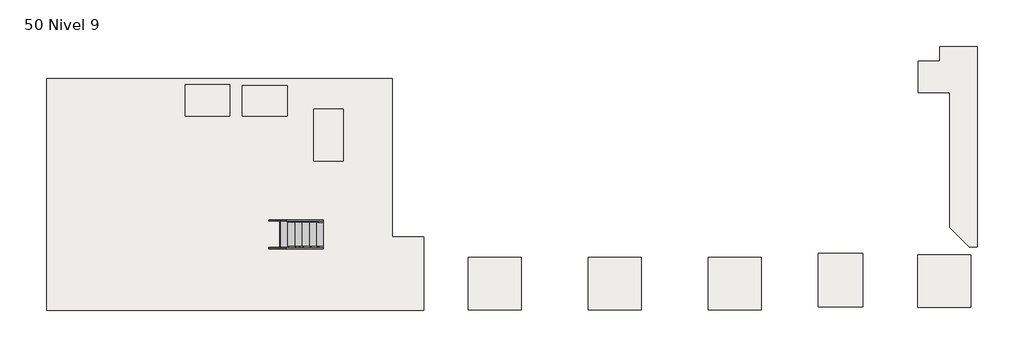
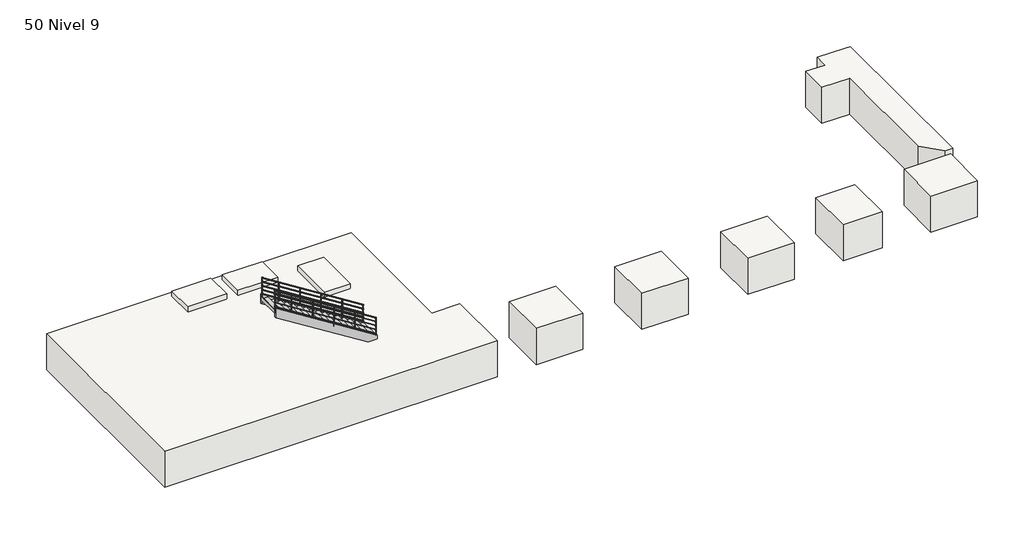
# One storey: 10 slabs, 2 members, 2 railings, 1 stair flight.
"""IFC4 building model written with IfcOpenShell, lengths in millimetres."""

from ifc_helpers import new_model, si_unit, frame, origin, place, context, project, spatial, polyline, circle_curve, ellipse_curve, outline, extrude, transform, mapped, element, save
from ifc_brep_helpers import plane_surface, cylinder_surface, advanced_brep
from components import stair_flight_0d32d6d2

model = new_model("IFC4")

# Units and contexts
model_context = context("Model", 3, world=origin())
ifc_project = project(units=[si_unit("LENGTHUNIT", "METRE", prefix="MILLI")], contexts=[model_context])

# Site, building, storey
site = spatial("IfcSite", under=ifc_project)
building = spatial("IfcBuilding", under=site)
storey = spatial("IfcBuildingStorey", under=building, Name="50 Nivel 9", Elevation=-5013.3149332)

# Members
placement = place(None, origin())
element("IfcMember", 1, ObjectType="Zanca - Anchura 50 mm", at=placement, inside=storey, context=model_context, shape_type="SweptSolid", body=[
    extrude(outline(polyline([(-5013.3149332, -7103.8952515), (-4775.7061654, -7103.8952515), (-1751.4097577, -11903.8952515), (-2224.1850212, -11903.8952515), (-5013.3149332, -7477.1388186), (-5013.3149332, -7103.8952515)])), frame((0.0, 3850.9420904, 0.0), z_axis=(0.0, 1.0, 0.0), x_axis=(0.0, 0.0, 1.0)), (0.0, 0.0, 1.0), 50.0),
])
element("IfcMember", 2, ObjectType="Zanca - Anchura 50 mm", at=placement, inside=storey, context=model_context, shape_type="SweptSolid", body=[
    extrude(outline(polyline([(-5013.3149332, -7103.8952515), (-4775.7061654, -7103.8952515), (-1751.4097577, -11903.8952515), (-2224.1850212, -11903.8952515), (-5013.3149332, -7477.1388186), (-5013.3149332, -7103.8952515)])), frame((0.0, 5000.9420904, 0.0), z_axis=(0.0, 1.0, 0.0), x_axis=(0.0, 0.0, 1.0)), (0.0, 0.0, 1.0), 50.0),
])

# Railings
element("IfcRailing", 3, ObjectType="Tubería 900 mm", at=placement, inside=storey, context=model_context, shape_type="AdvancedBrep", body=[
    advanced_brep(
    [(-7103.8952515, 4995.5420904, -3947.9351709), (-7103.8952515, 4955.5420904, -3947.9351709), (-11903.8952515, 4995.5420904, -923.6387632), (-11903.8952515, 4955.5420904, -923.6387632)],
    [
        (0, 1, ellipse_curve(frame((-7103.8952515, 4975.5420904, -3947.9351709), z_axis=(1.0, 0.0, 0.0), x_axis=(0.0, 0.0, -1.0)), 23.6387632, 20.0)),
        (1, 0, ellipse_curve(frame((-7103.8952515, 4975.5420904, -3947.9351709), z_axis=(1.0, 0.0, 0.0), x_axis=(0.0, 0.0, -1.0)), 23.6387632, 20.0)),
        (2, 3, ellipse_curve(frame((-11903.8952515, 4975.5420904, -923.6387632), z_axis=(-1.0, 0.0, 0.0), x_axis=(0.0, 0.0, -1.0)), 23.6387632, 20.0)),
        (3, 2, ellipse_curve(frame((-11903.8952515, 4975.5420904, -923.6387632), z_axis=(-1.0, 0.0, 0.0), x_axis=(0.0, 0.0, -1.0)), 23.6387632, 20.0)),
        (0, 2),
        (3, 1),
    ],
    [
        plane_surface(frame((-7103.8952515, 4975.5420904, -3924.2964077), z_axis=(1.0, 0.0, 0.0), x_axis=(0.0, -1.0, 0.0))),
        plane_surface(frame((-11903.8952515, 4975.5420904, -900.0), z_axis=(-1.0, 0.0, 0.0), x_axis=(0.0, -1.0, 0.0))),
        cylinder_surface(frame((-7114.5567526, 4975.5420904, -3941.2177668), z_axis=(0.8460679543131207, 0.0, -0.5330750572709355), x_axis=(0.0, -1.0, 0.0)), 20.0),
    ],
    [
        (0, [[1, 2]]),
        (1, [[3, 4]]),
        (2, [[-1, 5, -4, 6]]),
        (2, [[-2, -6, -3, -5]]),
    ],
),
    advanced_brep(
    [(-7103.8952515, 4960.5420904, -4142.0254801), (-7103.8952515, 4990.5420904, -4142.0254801), (-11903.8952515, 4960.5420904, -1117.7290724), (-11903.8952515, 4990.5420904, -1117.7290724)],
    [
        (0, 1, ellipse_curve(frame((-7103.8952515, 4975.5420904, -4142.0254801), z_axis=(1.0, 0.0, 0.0), x_axis=(0.0, 0.0, -1.0)), 17.7290724, 15.0)),
        (1, 0, ellipse_curve(frame((-7103.8952515, 4975.5420904, -4142.0254801), z_axis=(1.0, 0.0, 0.0), x_axis=(0.0, 0.0, -1.0)), 17.7290724, 15.0)),
        (2, 3, ellipse_curve(frame((-11903.8952515, 4975.5420904, -1117.7290724), z_axis=(-1.0, 0.0, 0.0), x_axis=(0.0, 0.0, -1.0)), 17.7290724, 15.0)),
        (3, 2, ellipse_curve(frame((-11903.8952515, 4975.5420904, -1117.7290724), z_axis=(-1.0, 0.0, 0.0), x_axis=(0.0, 0.0, -1.0)), 17.7290724, 15.0)),
        (0, 2),
        (3, 1),
    ],
    [
        plane_surface(frame((-7103.8952515, 4975.5420904, -4124.2964077), z_axis=(1.0, 0.0, 0.0), x_axis=(0.0, -1.0, 0.0))),
        plane_surface(frame((-11903.8952515, 4975.5420904, -1100.0), z_axis=(-1.0, 0.0, 0.0), x_axis=(0.0, -1.0, 0.0))),
        cylinder_surface(frame((-7111.8913773, 4975.5420904, -4136.987427), z_axis=(0.8460679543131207, 0.0, -0.5330750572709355), x_axis=(0.0, 1.0, 0.0)), 15.0),
    ],
    [
        (0, [[1, 2]]),
        (1, [[3, 4]]),
        (2, [[-1, 5, -4, 6]]),
        (2, [[-2, -6, -3, -5]]),
    ],
),
    advanced_brep(
    [(-7103.8952515, 4960.5420904, -4342.0254801), (-7103.8952515, 4990.5420904, -4342.0254801), (-11903.8952515, 4960.5420904, -1317.7290724), (-11903.8952515, 4990.5420904, -1317.7290724)],
    [
        (0, 1, ellipse_curve(frame((-7103.8952515, 4975.5420904, -4342.0254801), z_axis=(1.0, 0.0, 0.0), x_axis=(0.0, 0.0, -1.0)), 17.7290724, 15.0)),
        (1, 0, ellipse_curve(frame((-7103.8952515, 4975.5420904, -4342.0254801), z_axis=(1.0, 0.0, 0.0), x_axis=(0.0, 0.0, -1.0)), 17.7290724, 15.0)),
        (2, 3, ellipse_curve(frame((-11903.8952515, 4975.5420904, -1317.7290724), z_axis=(-1.0, 0.0, 0.0), x_axis=(0.0, 0.0, -1.0)), 17.7290724, 15.0)),
        (3, 2, ellipse_curve(frame((-11903.8952515, 4975.5420904, -1317.7290724), z_axis=(-1.0, 0.0, 0.0), x_axis=(0.0, 0.0, -1.0)), 17.7290724, 15.0)),
        (0, 2),
        (3, 1),
    ],
    [
        plane_surface(frame((-7103.8952515, 4975.5420904, -4324.2964077), z_axis=(1.0, 0.0, 0.0), x_axis=(0.0, -1.0, 0.0))),
        plane_surface(frame((-11903.8952515, 4975.5420904, -1300.0), z_axis=(-1.0, 0.0, 0.0), x_axis=(0.0, -1.0, 0.0))),
        cylinder_surface(frame((-7111.8913773, 4975.5420904, -4336.987427), z_axis=(0.8460679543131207, 0.0, -0.5330750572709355), x_axis=(0.0, 1.0, 0.0)), 15.0),
    ],
    [
        (0, [[1, 2]]),
        (1, [[3, 4]]),
        (2, [[-1, 5, -4, 6]]),
        (2, [[-2, -6, -3, -5]]),
    ],
),
    advanced_brep(
    [(-7103.8952515, 4960.5420904, -4542.0254801), (-7103.8952515, 4990.5420904, -4542.0254801), (-11903.8952515, 4960.5420904, -1517.7290724), (-11903.8952515, 4990.5420904, -1517.7290724)],
    [
        (0, 1, ellipse_curve(frame((-7103.8952515, 4975.5420904, -4542.0254801), z_axis=(1.0, 0.0, 0.0), x_axis=(0.0, 0.0, -1.0)), 17.7290724, 15.0)),
        (1, 0, ellipse_curve(frame((-7103.8952515, 4975.5420904, -4542.0254801), z_axis=(1.0, 0.0, 0.0), x_axis=(0.0, 0.0, -1.0)), 17.7290724, 15.0)),
        (2, 3, ellipse_curve(frame((-11903.8952515, 4975.5420904, -1517.7290724), z_axis=(-1.0, 0.0, 0.0), x_axis=(0.0, 0.0, -1.0)), 17.7290724, 15.0)),
        (3, 2, ellipse_curve(frame((-11903.8952515, 4975.5420904, -1517.7290724), z_axis=(-1.0, 0.0, 0.0), x_axis=(0.0, 0.0, -1.0)), 17.7290724, 15.0)),
        (0, 2),
        (3, 1),
    ],
    [
        plane_surface(frame((-7103.8952515, 4975.5420904, -4524.2964077), z_axis=(1.0, 0.0, 0.0), x_axis=(0.0, -1.0, 0.0))),
        plane_surface(frame((-11903.8952515, 4975.5420904, -1500.0), z_axis=(-1.0, 0.0, 0.0), x_axis=(0.0, -1.0, 0.0))),
        cylinder_surface(frame((-7111.8913773, 4975.5420904, -4536.987427), z_axis=(0.8460679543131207, 0.0, -0.5330750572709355), x_axis=(0.0, 1.0, 0.0)), 15.0),
    ],
    [
        (0, [[1, 2]]),
        (1, [[3, 4]]),
        (2, [[-1, 5, -4, 6]]),
        (2, [[-2, -6, -3, -5]]),
    ],
),
    advanced_brep(
    [(-7103.8952515, 4960.5420904, -4742.0254801), (-7103.8952515, 4990.5420904, -4742.0254801), (-11903.8952515, 4960.5420904, -1717.7290724), (-11903.8952515, 4990.5420904, -1717.7290724)],
    [
        (0, 1, ellipse_curve(frame((-7103.8952515, 4975.5420904, -4742.0254801), z_axis=(1.0, 0.0, 0.0), x_axis=(0.0, 0.0, -1.0)), 17.7290724, 15.0)),
        (1, 0, ellipse_curve(frame((-7103.8952515, 4975.5420904, -4742.0254801), z_axis=(1.0, 0.0, 0.0), x_axis=(0.0, 0.0, -1.0)), 17.7290724, 15.0)),
        (2, 3, ellipse_curve(frame((-11903.8952515, 4975.5420904, -1717.7290724), z_axis=(-1.0, 0.0, 0.0), x_axis=(0.0, 0.0, -1.0)), 17.7290724, 15.0)),
        (3, 2, ellipse_curve(frame((-11903.8952515, 4975.5420904, -1717.7290724), z_axis=(-1.0, 0.0, 0.0), x_axis=(0.0, 0.0, -1.0)), 17.7290724, 15.0)),
        (0, 2),
        (3, 1),
    ],
    [
        plane_surface(frame((-7103.8952515, 4975.5420904, -4724.2964077), z_axis=(1.0, 0.0, 0.0), x_axis=(0.0, -1.0, 0.0))),
        plane_surface(frame((-11903.8952515, 4975.5420904, -1700.0), z_axis=(-1.0, 0.0, 0.0), x_axis=(0.0, -1.0, 0.0))),
        cylinder_surface(frame((-7111.8913773, 4975.5420904, -4736.987427), z_axis=(0.8460679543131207, 0.0, -0.5330750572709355), x_axis=(0.0, 1.0, 0.0)), 15.0),
    ],
    [
        (0, [[1, 2]]),
        (1, [[3, 4]]),
        (2, [[-1, 5, -4, 6]]),
        (2, [[-2, -6, -3, -5]]),
    ],
),
    advanced_brep(
    [(-11103.8952515, 4988.0420904, -1451.3269276), (-11103.8952515, 4988.0420904, -2367.0555764), (-11103.8952515, 4963.0420904, -2367.0555764), (-11103.8952515, 4963.0420904, -1451.3269276)],
    [
        (0, 1),
        (1, 2, circle_curve(frame((-11103.8952515, 4975.5420904, -2367.0555764), z_axis=(0.0, 0.0, 1.0), x_axis=(0.0, -1.0, 0.0)), 12.5)),
        (2, 3),
        (3, 0, ellipse_curve(frame((-11103.8952515, 4975.5420904, -1451.3269276), z_axis=(-0.5330750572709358, 0.0, -0.8460679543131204), x_axis=(-0.8460679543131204, 0.0, 0.5330750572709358)), 14.774227, 12.5)),
        (0, 3, ellipse_curve(frame((-11103.8952515, 4975.5420904, -1451.3269276), z_axis=(-0.5330750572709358, 0.0, -0.8460679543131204), x_axis=(-0.8460679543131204, 0.0, 0.5330750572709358)), 14.774227, 12.5)),
        (2, 1, circle_curve(frame((-11103.8952515, 4975.5420904, -2367.0555764), z_axis=(0.0, 0.0, 1.0), x_axis=(0.0, -1.0, 0.0)), 12.5)),
    ],
    [
        cylinder_surface(frame((-11103.8952515, 4975.5420904, -2467.0555764), z_axis=(0.0, 0.0, 1.0), x_axis=(0.0, -1.0, 0.0)), 12.5),
        plane_surface(frame((-11128.8952515, 4950.5420904, -1435.5753838), z_axis=(0.5330750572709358, 0.0, 0.8460679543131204), x_axis=(0.0, 1.0, 0.0))),
        plane_surface(frame((-11078.8952515, 4950.5420904, -2367.0555764), z_axis=(0.0, 0.0, -1.0), x_axis=(0.0, 1.0, 0.0))),
    ],
    [
        (0, [[1, 2, 3, 4]]),
        (0, [[-1, 5, -3, 6]]),
        (1, [[-4, -5]]),
        (2, [[-2, -6]]),
    ],
),
    advanced_brep(
    [(-10103.8952515, 4988.0420904, -2081.3886792), (-10103.8952515, 4988.0420904, -2934.1111529), (-10103.8952515, 4963.0420904, -2934.1111529), (-10103.8952515, 4963.0420904, -2081.3886792)],
    [
        (0, 1),
        (1, 2, circle_curve(frame((-10103.8952515, 4975.5420904, -2934.1111529), z_axis=(0.0, 0.0, 1.0), x_axis=(0.0, -1.0, 0.0)), 12.5)),
        (2, 3),
        (3, 0, ellipse_curve(frame((-10103.8952515, 4975.5420904, -2081.3886792), z_axis=(-0.5330750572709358, 0.0, -0.8460679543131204), x_axis=(-0.8460679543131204, 0.0, 0.5330750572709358)), 14.774227, 12.5)),
        (0, 3, ellipse_curve(frame((-10103.8952515, 4975.5420904, -2081.3886792), z_axis=(-0.5330750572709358, 0.0, -0.8460679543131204), x_axis=(-0.8460679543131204, 0.0, 0.5330750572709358)), 14.774227, 12.5)),
        (2, 1, circle_curve(frame((-10103.8952515, 4975.5420904, -2934.1111529), z_axis=(0.0, 0.0, 1.0), x_axis=(0.0, -1.0, 0.0)), 12.5)),
    ],
    [
        cylinder_surface(frame((-10103.8952515, 4975.5420904, -3034.1111529), z_axis=(0.0, 0.0, 1.0), x_axis=(0.0, -1.0, 0.0)), 12.5),
        plane_surface(frame((-10128.8952515, 4950.5420904, -2065.6371354), z_axis=(0.5330750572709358, 0.0, 0.8460679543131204), x_axis=(0.0, 1.0, 0.0))),
        plane_surface(frame((-10078.8952515, 4950.5420904, -2934.1111529), z_axis=(0.0, 0.0, -1.0), x_axis=(0.0, 1.0, 0.0))),
    ],
    [
        (0, [[1, 2, 3, 4]]),
        (0, [[-1, 5, -3, 6]]),
        (1, [[-4, -5]]),
        (2, [[-2, -6]]),
    ],
),
    advanced_brep(
    [(-9103.8952515, 4988.0420904, -2711.4504308), (-9103.8952515, 4988.0420904, -3690.1852548), (-9103.8952515, 4963.0420904, -3690.1852548), (-9103.8952515, 4963.0420904, -2711.4504308)],
    [
        (0, 1),
        (1, 2, circle_curve(frame((-9103.8952515, 4975.5420904, -3690.1852548), z_axis=(0.0, 0.0, 1.0), x_axis=(0.0, -1.0, 0.0)), 12.5)),
        (2, 3),
        (3, 0, ellipse_curve(frame((-9103.8952515, 4975.5420904, -2711.4504308), z_axis=(-0.5330750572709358, 0.0, -0.8460679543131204), x_axis=(-0.8460679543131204, 0.0, 0.5330750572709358)), 14.774227, 12.5)),
        (0, 3, ellipse_curve(frame((-9103.8952515, 4975.5420904, -2711.4504308), z_axis=(-0.5330750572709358, 0.0, -0.8460679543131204), x_axis=(-0.8460679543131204, 0.0, 0.5330750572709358)), 14.774227, 12.5)),
        (2, 1, circle_curve(frame((-9103.8952515, 4975.5420904, -3690.1852548), z_axis=(0.0, 0.0, 1.0), x_axis=(0.0, -1.0, 0.0)), 12.5)),
    ],
    [
        cylinder_surface(frame((-9103.8952515, 4975.5420904, -3790.1852548), z_axis=(0.0, 0.0, 1.0), x_axis=(0.0, -1.0, 0.0)), 12.5),
        plane_surface(frame((-9128.8952515, 4950.5420904, -2695.698887), z_axis=(0.5330750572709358, 0.0, 0.8460679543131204), x_axis=(0.0, 1.0, 0.0))),
        plane_surface(frame((-9078.8952515, 4950.5420904, -3690.1852548), z_axis=(0.0, 0.0, -1.0), x_axis=(0.0, 1.0, 0.0))),
    ],
    [
        (0, [[1, 2, 3, 4]]),
        (0, [[-1, 5, -3, 6]]),
        (1, [[-4, -5]]),
        (2, [[-2, -6]]),
    ],
),
    advanced_brep(
    [(-8103.8952515, 4988.0420904, -3341.5121824), (-8103.8952515, 4988.0420904, -4257.2408313), (-8103.8952515, 4963.0420904, -4257.2408313), (-8103.8952515, 4963.0420904, -3341.5121824)],
    [
        (0, 1),
        (1, 2, circle_curve(frame((-8103.8952515, 4975.5420904, -4257.2408313), z_axis=(0.0, 0.0, 1.0), x_axis=(0.0, -1.0, 0.0)), 12.5)),
        (2, 3),
        (3, 0, ellipse_curve(frame((-8103.8952515, 4975.5420904, -3341.5121824), z_axis=(-0.5330750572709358, 0.0, -0.8460679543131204), x_axis=(-0.8460679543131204, 0.0, 0.5330750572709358)), 14.774227, 12.5)),
        (0, 3, ellipse_curve(frame((-8103.8952515, 4975.5420904, -3341.5121824), z_axis=(-0.5330750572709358, 0.0, -0.8460679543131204), x_axis=(-0.8460679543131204, 0.0, 0.5330750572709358)), 14.774227, 12.5)),
        (2, 1, circle_curve(frame((-8103.8952515, 4975.5420904, -4257.2408313), z_axis=(0.0, 0.0, 1.0), x_axis=(0.0, -1.0, 0.0)), 12.5)),
    ],
    [
        cylinder_surface(frame((-8103.8952515, 4975.5420904, -4357.2408313), z_axis=(0.0, 0.0, 1.0), x_axis=(0.0, -1.0, 0.0)), 12.5),
        plane_surface(frame((-8128.8952515, 4950.5420904, -3325.7606387), z_axis=(0.5330750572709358, 0.0, 0.8460679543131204), x_axis=(0.0, 1.0, 0.0))),
        plane_surface(frame((-8078.8952515, 4950.5420904, -4257.2408313), z_axis=(0.0, 0.0, -1.0), x_axis=(0.0, 1.0, 0.0))),
    ],
    [
        (0, [[1, 2, 3, 4]]),
        (0, [[-1, 5, -3, 6]]),
        (1, [[-4, -5]]),
        (2, [[-2, -6]]),
    ],
),
    advanced_brep(
    [(-11891.3952515, 4988.0420904, -955.1532982), (-11891.3952515, 4988.0420904, -1989.0185255), (-11891.3952515, 4963.0420904, -1989.0185255), (-11891.3952515, 4963.0420904, -955.1532982)],
    [
        (0, 1),
        (1, 2, circle_curve(frame((-11891.3952515, 4975.5420904, -1989.0185255), z_axis=(0.0, 0.0, 1.0), x_axis=(0.0, -1.0, 0.0)), 12.5)),
        (2, 3),
        (3, 0, ellipse_curve(frame((-11891.3952515, 4975.5420904, -955.1532982), z_axis=(-0.5330750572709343, 0.0, -0.8460679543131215), x_axis=(-0.8460679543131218, 0.0, 0.533075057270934)), 14.774227, 12.5)),
        (0, 3, ellipse_curve(frame((-11891.3952515, 4975.5420904, -955.1532982), z_axis=(-0.5330750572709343, 0.0, -0.8460679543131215), x_axis=(-0.8460679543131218, 0.0, 0.533075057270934)), 14.774227, 12.5)),
        (2, 1, circle_curve(frame((-11891.3952515, 4975.5420904, -1989.0185255), z_axis=(0.0, 0.0, 1.0), x_axis=(0.0, -1.0, 0.0)), 12.5)),
    ],
    [
        cylinder_surface(frame((-11891.3952515, 4975.5420904, -2089.0185255), z_axis=(0.0, 0.0, 1.0), x_axis=(0.0, -1.0, 0.0)), 12.5),
        plane_surface(frame((-11916.3952515, 4950.5420904, -939.4017545), z_axis=(0.5330750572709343, 0.0, 0.8460679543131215), x_axis=(0.0, 1.0, 0.0))),
        plane_surface(frame((-11866.3952515, 4950.5420904, -1989.0185255), z_axis=(0.0, 0.0, -1.0), x_axis=(0.0, 1.0, 0.0))),
    ],
    [
        (0, [[1, 2, 3, 4]]),
        (0, [[-1, 5, -3, 6]]),
        (1, [[-4, -5]]),
        (2, [[-2, -6]]),
    ],
),
    advanced_brep(
    [(-7116.3952515, 4988.0420904, -3963.6981622), (-7116.3952515, 4988.0420904, -4824.2964077), (-7116.3952515, 4963.0420904, -4824.2964077), (-7116.3952515, 4963.0420904, -3963.6981622)],
    [
        (0, 1),
        (1, 2, circle_curve(frame((-7116.3952515, 4975.5420904, -4824.2964077), z_axis=(0.0, 0.0, 1.0), x_axis=(0.0, -1.0, 0.0)), 12.5)),
        (2, 3),
        (3, 0, ellipse_curve(frame((-7116.3952515, 4975.5420904, -3963.6981622), z_axis=(-0.5330750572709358, 0.0, -0.8460679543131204), x_axis=(-0.8460679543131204, 0.0, 0.5330750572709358)), 14.774227, 12.5)),
        (0, 3, ellipse_curve(frame((-7116.3952515, 4975.5420904, -3963.6981622), z_axis=(-0.5330750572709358, 0.0, -0.8460679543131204), x_axis=(-0.8460679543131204, 0.0, 0.5330750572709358)), 14.774227, 12.5)),
        (2, 1, circle_curve(frame((-7116.3952515, 4975.5420904, -4824.2964077), z_axis=(0.0, 0.0, 1.0), x_axis=(0.0, -1.0, 0.0)), 12.5)),
    ],
    [
        cylinder_surface(frame((-7116.3952515, 4975.5420904, -4924.2964077), z_axis=(0.0, 0.0, 1.0), x_axis=(0.0, -1.0, 0.0)), 12.5),
        plane_surface(frame((-7141.3952515, 4950.5420904, -3947.9466184), z_axis=(0.5330750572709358, 0.0, 0.8460679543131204), x_axis=(0.0, 1.0, 0.0))),
        plane_surface(frame((-7091.3952515, 4950.5420904, -4824.2964077), z_axis=(0.0, 0.0, -1.0), x_axis=(0.0, 1.0, 0.0))),
    ],
    [
        (0, [[1, 2, 3, 4]]),
        (0, [[-1, 5, -3, 6]]),
        (1, [[-4, -5]]),
        (2, [[-2, -6]]),
    ],
),
])
element("IfcRailing", 4, ObjectType="Tubería 900 mm", at=placement, inside=storey, context=model_context, shape_type="AdvancedBrep", body=[
    advanced_brep(
    [(-7103.8952515, 3946.3420904, -3947.9351709), (-7103.8952515, 3906.3420904, -3947.9351709), (-11903.8952515, 3946.3420904, -923.6387632), (-11903.8952515, 3906.3420904, -923.6387632)],
    [
        (0, 1, ellipse_curve(frame((-7103.8952515, 3926.3420904, -3947.9351709), z_axis=(1.0, 0.0, 0.0), x_axis=(0.0, 0.0, -1.0)), 23.6387632, 20.0)),
        (1, 0, ellipse_curve(frame((-7103.8952515, 3926.3420904, -3947.9351709), z_axis=(1.0, 0.0, 0.0), x_axis=(0.0, 0.0, -1.0)), 23.6387632, 20.0)),
        (2, 3, ellipse_curve(frame((-11903.8952515, 3926.3420904, -923.6387632), z_axis=(-1.0, 0.0, 0.0), x_axis=(0.0, 0.0, -1.0)), 23.6387632, 20.0)),
        (3, 2, ellipse_curve(frame((-11903.8952515, 3926.3420904, -923.6387632), z_axis=(-1.0, 0.0, 0.0), x_axis=(0.0, 0.0, -1.0)), 23.6387632, 20.0)),
        (0, 2),
        (3, 1),
    ],
    [
        plane_surface(frame((-7103.8952515, 3926.3420904, -3924.2964077), z_axis=(1.0, 0.0, 0.0), x_axis=(0.0, -1.0, 0.0))),
        plane_surface(frame((-11903.8952515, 3926.3420904, -900.0), z_axis=(-1.0, 0.0, 0.0), x_axis=(0.0, -1.0, 0.0))),
        cylinder_surface(frame((-7114.5567526, 3926.3420904, -3941.2177668), z_axis=(0.8460679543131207, 0.0, -0.5330750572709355), x_axis=(0.0, -1.0, 0.0)), 20.0),
    ],
    [
        (0, [[1, 2]]),
        (1, [[3, 4]]),
        (2, [[-1, 5, -4, 6]]),
        (2, [[-2, -6, -3, -5]]),
    ],
),
    advanced_brep(
    [(-7103.8952515, 3941.3420904, -4142.0254801), (-7103.8952515, 3911.3420904, -4142.0254801), (-11903.8952515, 3941.3420904, -1117.7290724), (-11903.8952515, 3911.3420904, -1117.7290724)],
    [
        (0, 1, ellipse_curve(frame((-7103.8952515, 3926.3420904, -4142.0254801), z_axis=(1.0, 0.0, 0.0), x_axis=(0.0, 0.0, -1.0)), 17.7290724, 15.0)),
        (1, 0, ellipse_curve(frame((-7103.8952515, 3926.3420904, -4142.0254801), z_axis=(1.0, 0.0, 0.0), x_axis=(0.0, 0.0, -1.0)), 17.7290724, 15.0)),
        (2, 3, ellipse_curve(frame((-11903.8952515, 3926.3420904, -1117.7290724), z_axis=(-1.0, 0.0, 0.0), x_axis=(0.0, 0.0, -1.0)), 17.7290724, 15.0)),
        (3, 2, ellipse_curve(frame((-11903.8952515, 3926.3420904, -1117.7290724), z_axis=(-1.0, 0.0, 0.0), x_axis=(0.0, 0.0, -1.0)), 17.7290724, 15.0)),
        (0, 2),
        (3, 1),
    ],
    [
        plane_surface(frame((-7103.8952515, 3926.3420904, -4124.2964077), z_axis=(1.0, 0.0, 0.0), x_axis=(0.0, -1.0, 0.0))),
        plane_surface(frame((-11903.8952515, 3926.3420904, -1100.0), z_axis=(-1.0, 0.0, 0.0), x_axis=(0.0, -1.0, 0.0))),
        cylinder_surface(frame((-7111.8913773, 3926.3420904, -4136.987427), z_axis=(0.8460679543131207, 0.0, -0.5330750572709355), x_axis=(0.0, -1.0, 0.0)), 15.0),
    ],
    [
        (0, [[1, 2]]),
        (1, [[3, 4]]),
        (2, [[-1, 5, -4, 6]]),
        (2, [[-2, -6, -3, -5]]),
    ],
),
    advanced_brep(
    [(-7103.8952515, 3941.3420904, -4342.0254801), (-7103.8952515, 3911.3420904, -4342.0254801), (-11903.8952515, 3941.3420904, -1317.7290724), (-11903.8952515, 3911.3420904, -1317.7290724)],
    [
        (0, 1, ellipse_curve(frame((-7103.8952515, 3926.3420904, -4342.0254801), z_axis=(1.0, 0.0, 0.0), x_axis=(0.0, 0.0, -1.0)), 17.7290724, 15.0)),
        (1, 0, ellipse_curve(frame((-7103.8952515, 3926.3420904, -4342.0254801), z_axis=(1.0, 0.0, 0.0), x_axis=(0.0, 0.0, -1.0)), 17.7290724, 15.0)),
        (2, 3, ellipse_curve(frame((-11903.8952515, 3926.3420904, -1317.7290724), z_axis=(-1.0, 0.0, 0.0), x_axis=(0.0, 0.0, -1.0)), 17.7290724, 15.0)),
        (3, 2, ellipse_curve(frame((-11903.8952515, 3926.3420904, -1317.7290724), z_axis=(-1.0, 0.0, 0.0), x_axis=(0.0, 0.0, -1.0)), 17.7290724, 15.0)),
        (0, 2),
        (3, 1),
    ],
    [
        plane_surface(frame((-7103.8952515, 3926.3420904, -4324.2964077), z_axis=(1.0, 0.0, 0.0), x_axis=(0.0, -1.0, 0.0))),
        plane_surface(frame((-11903.8952515, 3926.3420904, -1300.0), z_axis=(-1.0, 0.0, 0.0), x_axis=(0.0, -1.0, 0.0))),
        cylinder_surface(frame((-7111.8913773, 3926.3420904, -4336.987427), z_axis=(0.8460679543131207, 0.0, -0.5330750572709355), x_axis=(0.0, -1.0, 0.0)), 15.0),
    ],
    [
        (0, [[1, 2]]),
        (1, [[3, 4]]),
        (2, [[-1, 5, -4, 6]]),
        (2, [[-2, -6, -3, -5]]),
    ],
),
    advanced_brep(
    [(-7103.8952515, 3941.3420904, -4542.0254801), (-7103.8952515, 3911.3420904, -4542.0254801), (-11903.8952515, 3941.3420904, -1517.7290724), (-11903.8952515, 3911.3420904, -1517.7290724)],
    [
        (0, 1, ellipse_curve(frame((-7103.8952515, 3926.3420904, -4542.0254801), z_axis=(1.0, 0.0, 0.0), x_axis=(0.0, 0.0, -1.0)), 17.7290724, 15.0)),
        (1, 0, ellipse_curve(frame((-7103.8952515, 3926.3420904, -4542.0254801), z_axis=(1.0, 0.0, 0.0), x_axis=(0.0, 0.0, -1.0)), 17.7290724, 15.0)),
        (2, 3, ellipse_curve(frame((-11903.8952515, 3926.3420904, -1517.7290724), z_axis=(-1.0, 0.0, 0.0), x_axis=(0.0, 0.0, -1.0)), 17.7290724, 15.0)),
        (3, 2, ellipse_curve(frame((-11903.8952515, 3926.3420904, -1517.7290724), z_axis=(-1.0, 0.0, 0.0), x_axis=(0.0, 0.0, -1.0)), 17.7290724, 15.0)),
        (0, 2),
        (3, 1),
    ],
    [
        plane_surface(frame((-7103.8952515, 3926.3420904, -4524.2964077), z_axis=(1.0, 0.0, 0.0), x_axis=(0.0, -1.0, 0.0))),
        plane_surface(frame((-11903.8952515, 3926.3420904, -1500.0), z_axis=(-1.0, 0.0, 0.0), x_axis=(0.0, -1.0, 0.0))),
        cylinder_surface(frame((-7111.8913773, 3926.3420904, -4536.987427), z_axis=(0.8460679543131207, 0.0, -0.5330750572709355), x_axis=(0.0, -1.0, 0.0)), 15.0),
    ],
    [
        (0, [[1, 2]]),
        (1, [[3, 4]]),
        (2, [[-1, 5, -4, 6]]),
        (2, [[-2, -6, -3, -5]]),
    ],
),
    advanced_brep(
    [(-7103.8952515, 3941.3420904, -4742.0254801), (-7103.8952515, 3911.3420904, -4742.0254801), (-11903.8952515, 3941.3420904, -1717.7290724), (-11903.8952515, 3911.3420904, -1717.7290724)],
    [
        (0, 1, ellipse_curve(frame((-7103.8952515, 3926.3420904, -4742.0254801), z_axis=(1.0, 0.0, 0.0), x_axis=(0.0, 0.0, -1.0)), 17.7290724, 15.0)),
        (1, 0, ellipse_curve(frame((-7103.8952515, 3926.3420904, -4742.0254801), z_axis=(1.0, 0.0, 0.0), x_axis=(0.0, 0.0, -1.0)), 17.7290724, 15.0)),
        (2, 3, ellipse_curve(frame((-11903.8952515, 3926.3420904, -1717.7290724), z_axis=(-1.0, 0.0, 0.0), x_axis=(0.0, 0.0, -1.0)), 17.7290724, 15.0)),
        (3, 2, ellipse_curve(frame((-11903.8952515, 3926.3420904, -1717.7290724), z_axis=(-1.0, 0.0, 0.0), x_axis=(0.0, 0.0, -1.0)), 17.7290724, 15.0)),
        (0, 2),
        (3, 1),
    ],
    [
        plane_surface(frame((-7103.8952515, 3926.3420904, -4724.2964077), z_axis=(1.0, 0.0, 0.0), x_axis=(0.0, -1.0, 0.0))),
        plane_surface(frame((-11903.8952515, 3926.3420904, -1700.0), z_axis=(-1.0, 0.0, 0.0), x_axis=(0.0, -1.0, 0.0))),
        cylinder_surface(frame((-7111.8913773, 3926.3420904, -4736.987427), z_axis=(0.8460679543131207, 0.0, -0.5330750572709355), x_axis=(0.0, -1.0, 0.0)), 15.0),
    ],
    [
        (0, [[1, 2]]),
        (1, [[3, 4]]),
        (2, [[-1, 5, -4, 6]]),
        (2, [[-2, -6, -3, -5]]),
    ],
),
    advanced_brep(
    [(-11103.8952515, 3913.8420904, -1451.3269276), (-11103.8952515, 3938.8420904, -1451.3269276), (-11103.8952515, 3938.8420904, -2367.0555764), (-11103.8952515, 3913.8420904, -2367.0555764)],
    [
        (0, 1, ellipse_curve(frame((-11103.8952515, 3926.3420904, -1451.3269276), z_axis=(-0.5330750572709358, 0.0, -0.8460679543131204), x_axis=(-0.8460679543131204, 0.0, 0.5330750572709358)), 14.774227, 12.5)),
        (1, 2),
        (2, 3, circle_curve(frame((-11103.8952515, 3926.3420904, -2367.0555764), z_axis=(0.0, 0.0, 1.0), x_axis=(0.0, 1.0, 0.0)), 12.5)),
        (3, 0),
        (3, 2, circle_curve(frame((-11103.8952515, 3926.3420904, -2367.0555764), z_axis=(0.0, 0.0, 1.0), x_axis=(0.0, 1.0, 0.0)), 12.5)),
        (1, 0, ellipse_curve(frame((-11103.8952515, 3926.3420904, -1451.3269276), z_axis=(-0.5330750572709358, 0.0, -0.8460679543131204), x_axis=(-0.8460679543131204, 0.0, 0.5330750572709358)), 14.774227, 12.5)),
    ],
    [
        cylinder_surface(frame((-11103.8952515, 3926.3420904, -2467.0555764), z_axis=(0.0, 0.0, 1.0), x_axis=(0.0, 1.0, 0.0)), 12.5),
        plane_surface(frame((-11128.8952515, 3951.3420904, -1435.5753838), z_axis=(0.5330750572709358, 0.0, 0.8460679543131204), x_axis=(0.0, -1.0, 0.0))),
        plane_surface(frame((-11078.8952515, 3951.3420904, -2367.0555764), z_axis=(0.0, 0.0, -1.0), x_axis=(0.0, -1.0, 0.0))),
    ],
    [
        (0, [[1, 2, 3, 4]]),
        (0, [[5, -2, 6, -4]]),
        (1, [[-6, -1]]),
        (2, [[-5, -3]]),
    ],
),
    advanced_brep(
    [(-10103.8952515, 3913.8420904, -2081.3886792), (-10103.8952515, 3938.8420904, -2081.3886792), (-10103.8952515, 3938.8420904, -2934.1111529), (-10103.8952515, 3913.8420904, -2934.1111529)],
    [
        (0, 1, ellipse_curve(frame((-10103.8952515, 3926.3420904, -2081.3886792), z_axis=(-0.5330750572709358, 0.0, -0.8460679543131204), x_axis=(-0.8460679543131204, 0.0, 0.5330750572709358)), 14.774227, 12.5)),
        (1, 2),
        (2, 3, circle_curve(frame((-10103.8952515, 3926.3420904, -2934.1111529), z_axis=(0.0, 0.0, 1.0), x_axis=(0.0, 1.0, 0.0)), 12.5)),
        (3, 0),
        (3, 2, circle_curve(frame((-10103.8952515, 3926.3420904, -2934.1111529), z_axis=(0.0, 0.0, 1.0), x_axis=(0.0, 1.0, 0.0)), 12.5)),
        (1, 0, ellipse_curve(frame((-10103.8952515, 3926.3420904, -2081.3886792), z_axis=(-0.5330750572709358, 0.0, -0.8460679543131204), x_axis=(-0.8460679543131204, 0.0, 0.5330750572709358)), 14.774227, 12.5)),
    ],
    [
        cylinder_surface(frame((-10103.8952515, 3926.3420904, -3034.1111529), z_axis=(0.0, 0.0, 1.0), x_axis=(0.0, 1.0, 0.0)), 12.5),
        plane_surface(frame((-10128.8952515, 3951.3420904, -2065.6371354), z_axis=(0.5330750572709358, 0.0, 0.8460679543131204), x_axis=(0.0, -1.0, 0.0))),
        plane_surface(frame((-10078.8952515, 3951.3420904, -2934.1111529), z_axis=(0.0, 0.0, -1.0), x_axis=(0.0, -1.0, 0.0))),
    ],
    [
        (0, [[1, 2, 3, 4]]),
        (0, [[5, -2, 6, -4]]),
        (1, [[-6, -1]]),
        (2, [[-5, -3]]),
    ],
),
    advanced_brep(
    [(-9103.8952515, 3913.8420904, -2711.4504308), (-9103.8952515, 3938.8420904, -2711.4504308), (-9103.8952515, 3938.8420904, -3690.1852548), (-9103.8952515, 3913.8420904, -3690.1852548)],
    [
        (0, 1, ellipse_curve(frame((-9103.8952515, 3926.3420904, -2711.4504308), z_axis=(-0.5330750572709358, 0.0, -0.8460679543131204), x_axis=(-0.8460679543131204, 0.0, 0.5330750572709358)), 14.774227, 12.5)),
        (1, 2),
        (2, 3, circle_curve(frame((-9103.8952515, 3926.3420904, -3690.1852548), z_axis=(0.0, 0.0, 1.0), x_axis=(0.0, 1.0, 0.0)), 12.5)),
        (3, 0),
        (3, 2, circle_curve(frame((-9103.8952515, 3926.3420904, -3690.1852548), z_axis=(0.0, 0.0, 1.0), x_axis=(0.0, 1.0, 0.0)), 12.5)),
        (1, 0, ellipse_curve(frame((-9103.8952515, 3926.3420904, -2711.4504308), z_axis=(-0.5330750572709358, 0.0, -0.8460679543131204), x_axis=(-0.8460679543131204, 0.0, 0.5330750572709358)), 14.774227, 12.5)),
    ],
    [
        cylinder_surface(frame((-9103.8952515, 3926.3420904, -3790.1852548), z_axis=(0.0, 0.0, 1.0), x_axis=(0.0, 1.0, 0.0)), 12.5),
        plane_surface(frame((-9128.8952515, 3951.3420904, -2695.698887), z_axis=(0.5330750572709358, 0.0, 0.8460679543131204), x_axis=(0.0, -1.0, 0.0))),
        plane_surface(frame((-9078.8952515, 3951.3420904, -3690.1852548), z_axis=(0.0, 0.0, -1.0), x_axis=(0.0, -1.0, 0.0))),
    ],
    [
        (0, [[1, 2, 3, 4]]),
        (0, [[5, -2, 6, -4]]),
        (1, [[-6, -1]]),
        (2, [[-5, -3]]),
    ],
),
    advanced_brep(
    [(-8103.8952515, 3913.8420904, -3341.5121824), (-8103.8952515, 3938.8420904, -3341.5121824), (-8103.8952515, 3938.8420904, -4257.2408313), (-8103.8952515, 3913.8420904, -4257.2408313)],
    [
        (0, 1, ellipse_curve(frame((-8103.8952515, 3926.3420904, -3341.5121824), z_axis=(-0.5330750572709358, 0.0, -0.8460679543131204), x_axis=(-0.8460679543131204, 0.0, 0.5330750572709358)), 14.774227, 12.5)),
        (1, 2),
        (2, 3, circle_curve(frame((-8103.8952515, 3926.3420904, -4257.2408313), z_axis=(0.0, 0.0, 1.0), x_axis=(0.0, 1.0, 0.0)), 12.5)),
        (3, 0),
        (3, 2, circle_curve(frame((-8103.8952515, 3926.3420904, -4257.2408313), z_axis=(0.0, 0.0, 1.0), x_axis=(0.0, 1.0, 0.0)), 12.5)),
        (1, 0, ellipse_curve(frame((-8103.8952515, 3926.3420904, -3341.5121824), z_axis=(-0.5330750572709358, 0.0, -0.8460679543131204), x_axis=(-0.8460679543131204, 0.0, 0.5330750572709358)), 14.774227, 12.5)),
    ],
    [
        cylinder_surface(frame((-8103.8952515, 3926.3420904, -4357.2408313), z_axis=(0.0, 0.0, 1.0), x_axis=(0.0, 1.0, 0.0)), 12.5),
        plane_surface(frame((-8128.8952515, 3951.3420904, -3325.7606387), z_axis=(0.5330750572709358, 0.0, 0.8460679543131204), x_axis=(0.0, -1.0, 0.0))),
        plane_surface(frame((-8078.8952515, 3951.3420904, -4257.2408313), z_axis=(0.0, 0.0, -1.0), x_axis=(0.0, -1.0, 0.0))),
    ],
    [
        (0, [[1, 2, 3, 4]]),
        (0, [[5, -2, 6, -4]]),
        (1, [[-6, -1]]),
        (2, [[-5, -3]]),
    ],
),
    advanced_brep(
    [(-11891.3952515, 3913.8420904, -955.1532982), (-11891.3952515, 3938.8420904, -955.1532982), (-11891.3952515, 3938.8420904, -1989.0185255), (-11891.3952515, 3913.8420904, -1989.0185255)],
    [
        (0, 1, ellipse_curve(frame((-11891.3952515, 3926.3420904, -955.1532982), z_axis=(-0.5330750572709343, 0.0, -0.8460679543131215), x_axis=(-0.8460679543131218, 0.0, 0.533075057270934)), 14.774227, 12.5)),
        (1, 2),
        (2, 3, circle_curve(frame((-11891.3952515, 3926.3420904, -1989.0185255), z_axis=(0.0, 0.0, 1.0), x_axis=(0.0, 1.0, 0.0)), 12.5)),
        (3, 0),
        (3, 2, circle_curve(frame((-11891.3952515, 3926.3420904, -1989.0185255), z_axis=(0.0, 0.0, 1.0), x_axis=(0.0, 1.0, 0.0)), 12.5)),
        (1, 0, ellipse_curve(frame((-11891.3952515, 3926.3420904, -955.1532982), z_axis=(-0.5330750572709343, 0.0, -0.8460679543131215), x_axis=(-0.8460679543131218, 0.0, 0.533075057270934)), 14.774227, 12.5)),
    ],
    [
        cylinder_surface(frame((-11891.3952515, 3926.3420904, -2089.0185255), z_axis=(0.0, 0.0, 1.0), x_axis=(0.0, 1.0, 0.0)), 12.5),
        plane_surface(frame((-11916.3952515, 3951.3420904, -939.4017545), z_axis=(0.5330750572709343, 0.0, 0.8460679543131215), x_axis=(0.0, -1.0, 0.0))),
        plane_surface(frame((-11866.3952515, 3951.3420904, -1989.0185255), z_axis=(0.0, 0.0, -1.0), x_axis=(0.0, -1.0, 0.0))),
    ],
    [
        (0, [[1, 2, 3, 4]]),
        (0, [[5, -2, 6, -4]]),
        (1, [[-6, -1]]),
        (2, [[-5, -3]]),
    ],
),
    advanced_brep(
    [(-7116.3952515, 3913.8420904, -3963.6981622), (-7116.3952515, 3938.8420904, -3963.6981622), (-7116.3952515, 3938.8420904, -4824.2964077), (-7116.3952515, 3913.8420904, -4824.2964077)],
    [
        (0, 1, ellipse_curve(frame((-7116.3952515, 3926.3420904, -3963.6981622), z_axis=(-0.5330750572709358, 0.0, -0.8460679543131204), x_axis=(-0.8460679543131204, 0.0, 0.5330750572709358)), 14.774227, 12.5)),
        (1, 2),
        (2, 3, circle_curve(frame((-7116.3952515, 3926.3420904, -4824.2964077), z_axis=(0.0, 0.0, 1.0), x_axis=(0.0, 1.0, 0.0)), 12.5)),
        (3, 0),
        (3, 2, circle_curve(frame((-7116.3952515, 3926.3420904, -4824.2964077), z_axis=(0.0, 0.0, 1.0), x_axis=(0.0, 1.0, 0.0)), 12.5)),
        (1, 0, ellipse_curve(frame((-7116.3952515, 3926.3420904, -3963.6981622), z_axis=(-0.5330750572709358, 0.0, -0.8460679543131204), x_axis=(-0.8460679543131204, 0.0, 0.5330750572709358)), 14.774227, 12.5)),
    ],
    [
        cylinder_surface(frame((-7116.3952515, 3926.3420904, -4924.2964077), z_axis=(0.0, 0.0, 1.0), x_axis=(0.0, 1.0, 0.0)), 12.5),
        plane_surface(frame((-7141.3952515, 3951.3420904, -3947.9466184), z_axis=(0.5330750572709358, 0.0, 0.8460679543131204), x_axis=(0.0, -1.0, 0.0))),
        plane_surface(frame((-7091.3952515, 3951.3420904, -4824.2964077), z_axis=(0.0, 0.0, -1.0), x_axis=(0.0, -1.0, 0.0))),
    ],
    [
        (0, [[1, 2, 3, 4]]),
        (0, [[5, -2, 6, -4]]),
        (1, [[-6, -1]]),
        (2, [[-5, -3]]),
    ],
),
])

# Slabs
element("IfcSlab", 5, ObjectType="Genérico 1800 mm - Rellenado", at=placement, inside=storey, context=model_context, shape_type="SweptSolid", body=[
    extrude(outline(polyline([(-4242.3113028, 4335.3134383), (-2917.0664317, 4335.3134383), (-2917.0664317, 1275.3134383), (-18637.0664317, 1275.3134383), (-18637.0664317, 10935.3134383), (-4242.3113028, 10935.3134383), (-4242.3113028, 4335.3134383)])), frame((0.0, 0.0, -6773.3149332), z_axis=(0.0, 0.0, 1.0), x_axis=(1.0, 0.0, 0.0)), (0.0, 0.0, 1.0), 1800.0),
])
element("IfcSlab", 6, ObjectType="Genérico 1800 mm - Rellenado", at=placement, inside=storey, context=model_context, shape_type="SweptSolid", body=[
    extrude(outline(polyline([(15354.6610622, 3657.4933887), (15354.6610622, 1417.8559142), (13511.7548433, 1417.8559142), (13511.7548433, 3657.4933887), (15354.6610622, 3657.4933887)])), frame((0.0, 0.0, -6813.3149332), z_axis=(0.0, 0.0, 1.0), x_axis=(1.0, 0.0, 0.0)), (0.0, 0.0, 1.0), 1800.0),
])
element("IfcSlab", 7, ObjectType="Genérico 1800 mm - Rellenado", at=placement, inside=storey, context=model_context, shape_type="SweptSolid", body=[
    extrude(outline(polyline([(-1069.6042037, 3498.4120119), (1130.3957963, 3498.4120119), (1130.3957963, 1298.4120119), (-1069.6042037, 1298.4120119), (-1069.6042037, 3498.4120119)])), frame((0.0, 0.0, -6813.3149332), z_axis=(0.0, 0.0, 1.0), x_axis=(1.0, 0.0, 0.0)), (0.0, 0.0, 1.0), 1800.0),
])
element("IfcSlab", 8, ObjectType="Genérico 1800 mm - Rellenado", at=placement, inside=storey, context=model_context, shape_type="SweptSolid", body=[
    extrude(outline(polyline([(3930.3957963, 3498.4120119), (6130.3957963, 3498.4120119), (6130.3957963, 1298.4120119), (3930.3957963, 1298.4120119), (3930.3957963, 3498.4120119)])), frame((0.0, 0.0, -6813.3149332), z_axis=(0.0, 0.0, 1.0), x_axis=(1.0, 0.0, 0.0)), (0.0, 0.0, 1.0), 1800.0),
])
element("IfcSlab", 9, ObjectType="Genérico 1800 mm - Rellenado", at=placement, inside=storey, context=model_context, shape_type="SweptSolid", body=[
    extrude(outline(polyline([(8930.3957963, 3498.4120119), (11130.3957963, 3498.4120119), (11130.3957963, 1298.4120119), (8930.3957963, 1298.4120119), (8930.3957963, 3498.4120119)])), frame((0.0, 0.0, -6813.3149332), z_axis=(0.0, 0.0, 1.0), x_axis=(1.0, 0.0, 0.0)), (0.0, 0.0, 1.0), 1800.0),
])
element("IfcSlab", 10, ObjectType="Genérico 1800 mm - Rellenado", at=placement, inside=storey, context=model_context, shape_type="SweptSolid", body=[
    extrude(outline(polyline([(17650.3957963, 3598.4120119), (19850.3957963, 3598.4120119), (19850.3957963, 1398.4120119), (17650.3957963, 1398.4120119), (17650.3957963, 3598.4120119)])), frame((0.0, 0.0, -6813.3149332), z_axis=(0.0, 0.0, 1.0), x_axis=(1.0, 0.0, 0.0)), (0.0, 0.0, 1.0), 1800.0),
])
element("IfcSlab", 11, ObjectType="Genérico 1800 mm - Rellenado", at=placement, inside=storey, context=model_context, shape_type="SweptSolid", body=[
    extrude(outline(polyline([(18574.8161663, 12285.3134383), (19880.4856046, 12285.3134383), (20135.7724502, 12285.3134383), (20135.7724502, 3918.4120119), (19784.9662119, 3918.4120119), (18974.8161663, 4728.5620575), (18974.8161663, 10355.3134383), (17674.8161663, 10355.3134383), (17674.8161663, 11665.3134383), (18574.8161663, 11665.3134383), (18574.8161663, 12285.3134383)])), frame((0.0, 0.0, -6813.3149332), z_axis=(0.0, 0.0, 1.0), x_axis=(1.0, 0.0, 0.0)), (0.0, 0.0, 1.0), 1800.0),
])
element("IfcSlab", 12, ObjectType="Genérico 300 mm", at=placement, inside=storey, context=model_context, shape_type="SweptSolid", body=[
    extrude(outline(polyline([(-7497.6309556, 9665.7037365), (-6274.4055753, 9665.7037365), (-6274.4055753, 7506.3148974), (-7497.6309556, 7506.3148974), (-7497.6309556, 9665.7037365)])), frame((0.0, 0.0, -5013.3149332), z_axis=(0.0, 0.0, 1.0), x_axis=(1.0, 0.0, 0.0)), (0.0, 0.0, 1.0), 300.0),
])
element("IfcSlab", 13, ObjectType="Genérico 300 mm", at=placement, inside=storey, context=model_context, shape_type="SweptSolid", body=[
    extrude(outline(polyline([(-8607.9989343, 9390.1866362), (-10486.3546243, 9390.1866362), (-10486.3546243, 10658.6823671), (-8607.9989343, 10658.6823671), (-8607.9989343, 9390.1866362)])), frame((0.0, 0.0, -5013.3149332), z_axis=(0.0, 0.0, 1.0), x_axis=(1.0, 0.0, 0.0)), (0.0, 0.0, 1.0), 300.0),
])
element("IfcSlab", 14, ObjectType="Genérico 300 mm", at=placement, inside=storey, context=model_context, shape_type="SweptSolid", body=[
    extrude(outline(polyline([(-11011.8628737, 9388.1253706), (-12860.8457256, 9388.1253706), (-12860.8457256, 10684.5257536), (-11011.8628737, 10684.5257536), (-11011.8628737, 9388.1253706)])), frame((0.0, 0.0, -5013.3149332), z_axis=(0.0, 0.0, 1.0), x_axis=(1.0, 0.0, 0.0)), (0.0, 0.0, 1.0), 300.0),
])

# Stair flight
stair_flight_shape = stair_flight_0d32d6d2(model_context)
element("IfcStairFlight", 15, ObjectType="Huella 50 mm Contrahuella 13 mm", at=placement, inside=storey, context=model_context, shape_type="MappedRepresentation", body=[
    mapped(stair_flight_shape, transform((0.0, 0.0, 0.0), x_axis=(1.0, 0.0, 0.0), y_axis=(0.0, 1.0, 0.0), z_axis=(0.0, 0.0, 1.0))),
])

save(model, "model.ifc")
